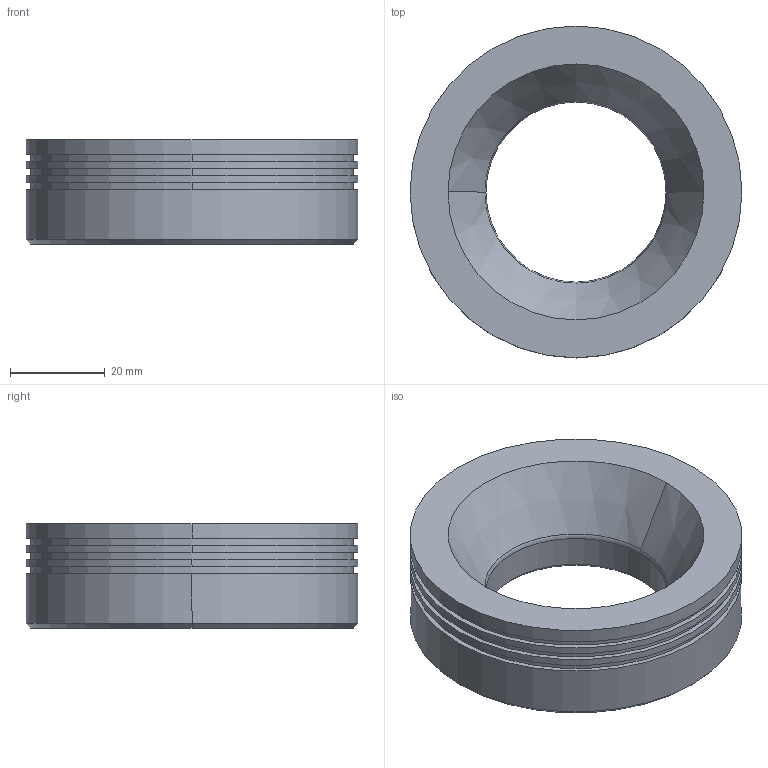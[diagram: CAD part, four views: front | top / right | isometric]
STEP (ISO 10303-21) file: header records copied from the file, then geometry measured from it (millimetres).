
FILE_DESCRIPTION((''),'2;1');
FILE_NAME('DRL7030','2020-03-28T',('ASUS'),(''),'PRO/ENGINEER BY PARAMETRIC TECHNOLOGY CORPORATION, 2008380','PRO/ENGINEER BY PARAMETRIC TECHNOLOGY CORPORATION, 2008380','');
FILE_SCHEMA(('CONFIG_CONTROL_DESIGN'));
Length unit declared in the file: millimetre
Products named in the file (1): DRL7030
Bounding box: 70 x 70 x 22 mm (x, y, z)
Volume: 50859.1 mm3; surface area: 13909.8 mm2
Topology: 1 solids, 5 shells, 68 faces, 152 edges, 92 vertices
Faces by surface type: cylinder 32, cone 22, plane 12, torus 2
Entity records: 1901 total; most frequent: DIRECTION 372, CARTESIAN_POINT 305, ORIENTED_EDGE 272, AXIS2_PLACEMENT_3D 159, EDGE_CURVE 144, VERTEX_POINT 92, CIRCLE 90, EDGE_LOOP 84
